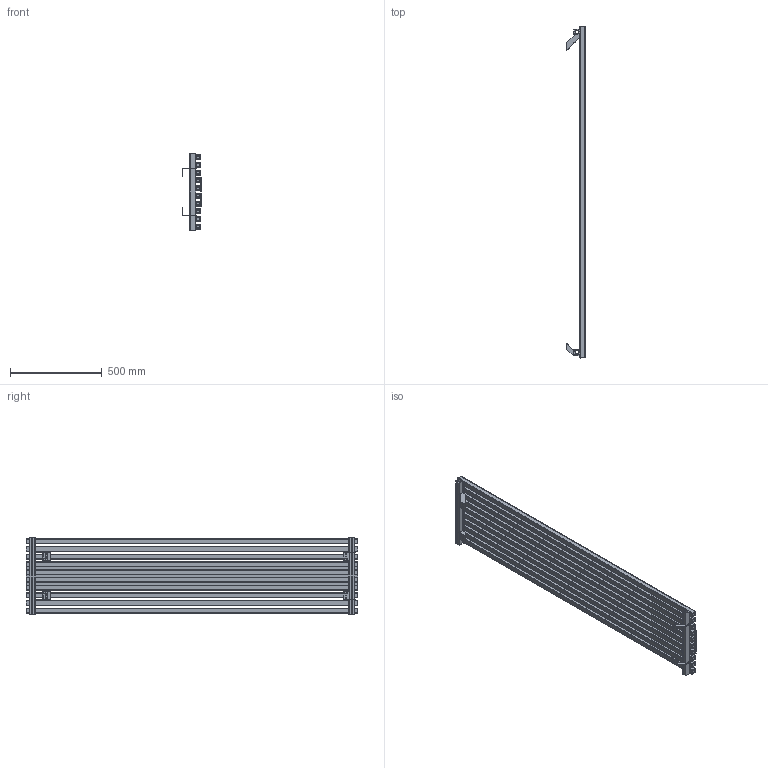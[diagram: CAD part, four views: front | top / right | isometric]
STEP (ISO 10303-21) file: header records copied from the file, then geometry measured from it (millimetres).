
FILE_DESCRIPTION (( 'STEP AP214' ), '1' );
FILE_NAME ('SOPHIA MIRROR.STEP', '2020-06-24T11:46:04', ( 'termosan' ), ( '' ), 'SwSTEP 2.0', 'SolidWorks 2009', '' );
FILE_SCHEMA (( 'AUTOMOTIVE_DESIGN' ));
Length unit declared in the file: millimetre
Products named in the file (9): BAR KPK; BAR PRO-1800; AKS 50 KOL.-415; SOPHIA ASKI ALT SOL; SOPHIA ASKI ALT SAÐ; SOPHIA ASKI ÜST SAÐ; SOPHIA ASKI 郿T SOL; 1800x153 AYNA; SOPHIA MIRROR
Assembly tree (37 placements, depth 2):
  SOPHIA MIRROR
    BAR KPK  x20
    BAR PRO-1800  x10
    AKS 50 KOL.-415  x2
    SOPHIA ASKI ALT SAÐ
    1800x153 AYNA
    SOPHIA ASKI ÜST SAÐ
    SOPHIA ASKI 郿T SOL
    SOPHIA ASKI ALT SOL
Bounding box: 101.9 x 1804 x 415 mm (x, y, z)
Volume: 6594559.1 mm3; surface area: 6053614.3 mm2
Topology: 37 solids, 37 shells, 1084 faces, 2830 edges, 1780 vertices
Faces by surface type: cylinder 588, plane 416, sphere 80
Entity records: 9111 total; most frequent: CARTESIAN_POINT 2470, DIRECTION 1313, ORIENTED_EDGE 1310, EDGE_CURVE 655, AXIS2_PLACEMENT_3D 457, VERTEX_POINT 422, LINE 399, VECTOR 399
